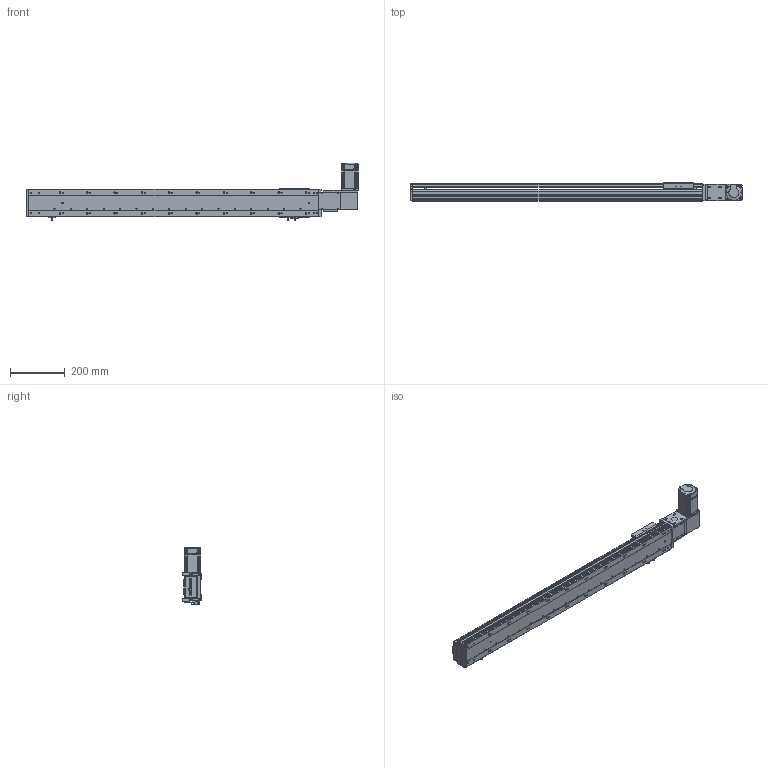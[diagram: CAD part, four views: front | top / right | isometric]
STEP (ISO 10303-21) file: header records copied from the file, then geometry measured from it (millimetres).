
FILE_DESCRIPTION (( 'STEP AP203' ), '1' );
FILE_NAME ('RY100-T-300-RK.SLDASM_850.step', '2024-04-25T08:22:21', ( '盈信电脑' ), ( '东莞市道滘镇水果街19号' ), 'SwSTEP 2.0', 'SolidWorks 2016', '' );
FILE_SCHEMA (( 'CONFIG_CONTROL_DESIGN' ));
Length unit declared in the file: millimetre
Products named in the file (15): RY80-T肮祭謫俋欶; RY100-T翋肮祭謫裔啣2; RY100-T-300-RK.SLDASM_850; 覜茼ん672; RY100-T-300-RK倰第菁釱_850; 侂狟200W萇儂; RY100-T左右折电机安装板; 滅袉蝶18-10; RY100-T肮祭謫翋盓傅釱; 1; RY100-T肮祭謫臏賑輸; RY100-T-300-RK倰第奻裔_850; RY100-T粣創揤踡裔; RY100俋离覜茼え; RY100綴裔啣
Assembly tree (18 placements, depth 3):
  RY100-T-300-RK.SLDASM_850
    RY100-T-300-RK倰第菁釱_850
    RY100-T-300-RK倰第奻裔_850
    RY100-T肮祭謫臏賑輸
    RY100綴裔啣
    覜茼ん672  x3
    RY100俋离覜茼え
    RY100-T肮祭謫翋盓傅釱
    RY100-T左右折电机安装板
    侂狟200W萇儂
      1
    RY100-T粣創揤踡裔
    滅袉蝶18-10  x2
    RY100-T翋肮祭謫裔啣2  x2
    RY80-T肮祭謫俋欶
Bounding box: 1214 x 66 x 209.7 mm (x, y, z)
Volume: 2381931.1 mm3; surface area: 974265.5 mm2
Topology: 17 solids, 17 shells, 2243 faces, 6270 edges, 4078 vertices
Faces by surface type: plane 1201, cylinder 827, cone 137, bspline 78
Entity records: 72358 total; most frequent: CARTESIAN_POINT 17747, ORIENTED_EDGE 11276, DIRECTION 10686, EDGE_CURVE 5638, VERTEX_POINT 3714, VECTOR 3602, LINE 3602, AXIS2_PLACEMENT_3D 3542
